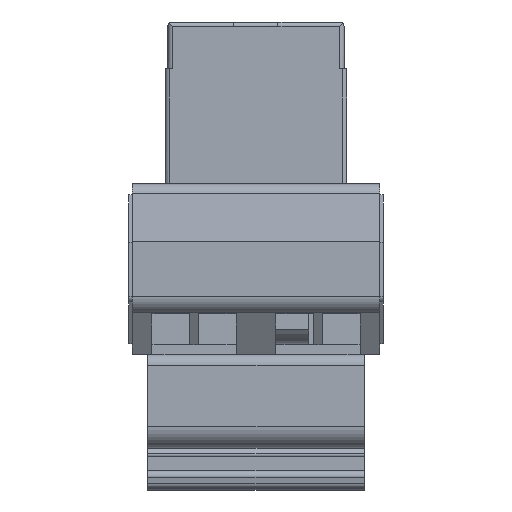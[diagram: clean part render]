
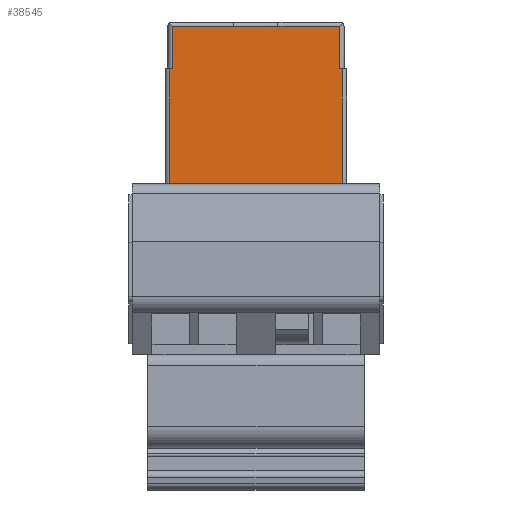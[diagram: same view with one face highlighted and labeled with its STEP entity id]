
A CAD part, left-side view. The second image highlights one B-rep face of the part: STEP entity #38545.
In plain terms, the highlighted planar face has unit normal (-1, 0, 0).
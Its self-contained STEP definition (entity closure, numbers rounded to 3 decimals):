
#2581=PLANE('',#41222);
#4308=FACE_OUTER_BOUND('',#6408,.T.);
#6408=EDGE_LOOP('',(#32847,#32848,#32849,#32850,#32851,#32852,#32853,#32854,
#32855,#32856));
#9910=LINE('',#59520,#14277);
#9911=LINE('',#59524,#14278);
#9912=LINE('',#59528,#14279);
#9913=LINE('',#59532,#14280);
#9916=LINE('',#59539,#14283);
#9918=LINE('',#59545,#14285);
#9920=LINE('',#59553,#14287);
#9922=LINE('',#59558,#14289);
#9923=LINE('',#59562,#14290);
#9925=LINE('',#59572,#14292);
#14277=VECTOR('',#48763,1000.);
#14278=VECTOR('',#48768,1000.);
#14279=VECTOR('',#48773,1000.);
#14280=VECTOR('',#48778,1000.);
#14283=VECTOR('',#48785,1000.);
#14285=VECTOR('',#48791,1000.);
#14287=VECTOR('',#48799,1000.);
#14289=VECTOR('',#48805,1000.);
#14290=VECTOR('',#48810,1000.);
#14292=VECTOR('',#48814,1000.);
#19237=VERTEX_POINT('',#59512);
#19238=VERTEX_POINT('',#59519);
#19239=VERTEX_POINT('',#59523);
#19240=VERTEX_POINT('',#59527);
#19241=VERTEX_POINT('',#59531);
#19243=VERTEX_POINT('',#59538);
#19245=VERTEX_POINT('',#59544);
#19248=VERTEX_POINT('',#59552);
#19249=VERTEX_POINT('',#59557);
#19250=VERTEX_POINT('',#59561);
#24000=EDGE_CURVE('',#19237,#19238,#9910,.T.);
#24002=EDGE_CURVE('',#19238,#19239,#9911,.T.);
#24004=EDGE_CURVE('',#19239,#19240,#9912,.T.);
#24006=EDGE_CURVE('',#19240,#19241,#9913,.T.);
#24010=EDGE_CURVE('',#19241,#19243,#9916,.T.);
#24013=EDGE_CURVE('',#19243,#19245,#9918,.T.);
#24017=EDGE_CURVE('',#19245,#19248,#9920,.T.);
#24020=EDGE_CURVE('',#19248,#19249,#9922,.T.);
#24022=EDGE_CURVE('',#19249,#19250,#9923,.T.);
#24025=EDGE_CURVE('',#19250,#19237,#9925,.T.);
#32847=ORIENTED_EDGE('',*,*,#24022,.F.);
#32848=ORIENTED_EDGE('',*,*,#24020,.F.);
#32849=ORIENTED_EDGE('',*,*,#24017,.F.);
#32850=ORIENTED_EDGE('',*,*,#24013,.F.);
#32851=ORIENTED_EDGE('',*,*,#24010,.F.);
#32852=ORIENTED_EDGE('',*,*,#24006,.F.);
#32853=ORIENTED_EDGE('',*,*,#24004,.F.);
#32854=ORIENTED_EDGE('',*,*,#24002,.F.);
#32855=ORIENTED_EDGE('',*,*,#24000,.F.);
#32856=ORIENTED_EDGE('',*,*,#24025,.F.);
#38545=ADVANCED_FACE('',(#4308),#2581,.F.);
#41222=AXIS2_PLACEMENT_3D('',#59574,#48816,#48817);
#48763=DIRECTION('',(0.,-1.,0.));
#48768=DIRECTION('',(0.,0.,-1.));
#48773=DIRECTION('',(0.,-1.,0.));
#48778=DIRECTION('',(0.,0.,-1.));
#48785=DIRECTION('',(0.,1.,0.));
#48791=DIRECTION('',(0.,0.,1.));
#48799=DIRECTION('',(0.,-1.,0.));
#48805=DIRECTION('',(0.,0.,1.));
#48810=DIRECTION('',(0.,-1.,0.));
#48814=DIRECTION('',(0.,-1.,0.));
#48816=DIRECTION('center_axis',(1.,0.,0.));
#48817=DIRECTION('ref_axis',(0.,-1.,0.));
#59512=CARTESIAN_POINT('',(-49.442,-1.995,17.268));
#59519=CARTESIAN_POINT('',(-49.442,-7.595,17.268));
#59520=CARTESIAN_POINT('',(-49.442,10.613,17.268));
#59523=CARTESIAN_POINT('',(-49.442,-7.595,13.418));
#59524=CARTESIAN_POINT('',(-49.442,-7.595,20.794));
#59527=CARTESIAN_POINT('',(-49.442,-7.845,13.418));
#59528=CARTESIAN_POINT('',(-49.442,10.613,13.418));
#59531=CARTESIAN_POINT('',(-49.442,-7.845,2.618));
#59532=CARTESIAN_POINT('',(-49.442,-7.845,20.794));
#59538=CARTESIAN_POINT('',(-49.442,7.855,2.618));
#59539=CARTESIAN_POINT('',(-49.442,10.613,2.618));
#59544=CARTESIAN_POINT('',(-49.442,7.855,13.418));
#59545=CARTESIAN_POINT('',(-49.442,7.855,20.794));
#59552=CARTESIAN_POINT('',(-49.442,7.605,13.418));
#59553=CARTESIAN_POINT('',(-49.442,10.613,13.418));
#59557=CARTESIAN_POINT('',(-49.442,7.605,17.268));
#59558=CARTESIAN_POINT('',(-49.442,7.605,20.794));
#59561=CARTESIAN_POINT('',(-49.442,2.005,17.268));
#59562=CARTESIAN_POINT('',(-49.442,10.613,17.268));
#59572=CARTESIAN_POINT('',(-49.442,10.613,17.268));
#59574=CARTESIAN_POINT('Origin',(-49.442,10.613,20.794));
